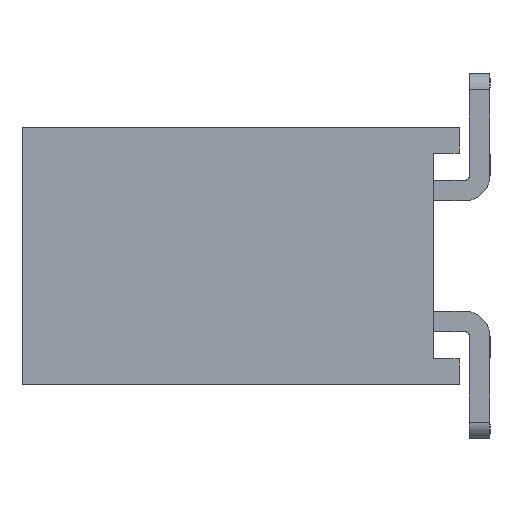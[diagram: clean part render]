
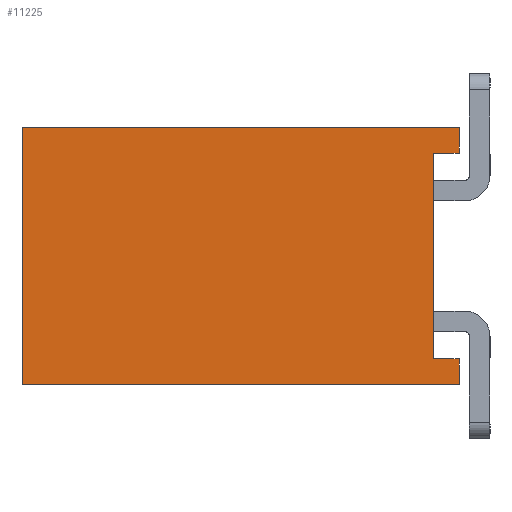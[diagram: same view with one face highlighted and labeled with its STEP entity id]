
A CAD part, left-side view. The second image highlights one B-rep face of the part: STEP entity #11225.
In plain terms, the highlighted planar face has unit normal (-1, 0, 0).
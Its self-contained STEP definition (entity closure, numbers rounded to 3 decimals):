
#403=FACE_OUTER_BOUND('',#989,.T.);
#989=EDGE_LOOP('',(#7507,#7508,#7509,#7510,#7511,#7512,#7513,#7514));
#1695=LINE('',#15835,#3191);
#1696=LINE('',#15837,#3192);
#1697=LINE('',#15839,#3193);
#1698=LINE('',#15841,#3194);
#1699=LINE('',#15843,#3195);
#1700=LINE('',#15845,#3196);
#1701=LINE('',#15847,#3197);
#1702=LINE('',#15848,#3198);
#3191=VECTOR('',#12765,10.);
#3192=VECTOR('',#12766,10.);
#3193=VECTOR('',#12767,10.);
#3194=VECTOR('',#12768,10.);
#3195=VECTOR('',#12769,10.);
#3196=VECTOR('',#12770,10.);
#3197=VECTOR('',#12771,10.);
#3198=VECTOR('',#12772,10.);
#4659=VERTEX_POINT('',#15833);
#4660=VERTEX_POINT('',#15834);
#4661=VERTEX_POINT('',#15836);
#4662=VERTEX_POINT('',#15838);
#4663=VERTEX_POINT('',#15840);
#4664=VERTEX_POINT('',#15842);
#4665=VERTEX_POINT('',#15844);
#4666=VERTEX_POINT('',#15846);
#5739=EDGE_CURVE('',#4659,#4660,#1695,.T.);
#5740=EDGE_CURVE('',#4659,#4661,#1696,.T.);
#5741=EDGE_CURVE('',#4661,#4662,#1697,.T.);
#5742=EDGE_CURVE('',#4663,#4662,#1698,.T.);
#5743=EDGE_CURVE('',#4664,#4663,#1699,.T.);
#5744=EDGE_CURVE('',#4664,#4665,#1700,.T.);
#5745=EDGE_CURVE('',#4666,#4665,#1701,.T.);
#5746=EDGE_CURVE('',#4660,#4666,#1702,.T.);
#7507=ORIENTED_EDGE('',*,*,#5739,.F.);
#7508=ORIENTED_EDGE('',*,*,#5740,.T.);
#7509=ORIENTED_EDGE('',*,*,#5741,.T.);
#7510=ORIENTED_EDGE('',*,*,#5742,.F.);
#7511=ORIENTED_EDGE('',*,*,#5743,.F.);
#7512=ORIENTED_EDGE('',*,*,#5744,.T.);
#7513=ORIENTED_EDGE('',*,*,#5745,.F.);
#7514=ORIENTED_EDGE('',*,*,#5746,.F.);
#10729=PLANE('',#11843);
#11225=ADVANCED_FACE('',(#403),#10729,.T.);
#11843=AXIS2_PLACEMENT_3D('',#15832,#12763,#12764);
#12763=DIRECTION('center_axis',(-1.,0.,0.));
#12764=DIRECTION('ref_axis',(0.,0.,1.));
#12765=DIRECTION('',(0.,1.,0.));
#12766=DIRECTION('',(0.,0.,1.));
#12767=DIRECTION('',(0.,1.,0.));
#12768=DIRECTION('',(0.,0.,1.));
#12769=DIRECTION('',(0.,1.,0.));
#12770=DIRECTION('',(0.,0.,1.));
#12771=DIRECTION('',(0.,-1.,0.));
#12772=DIRECTION('',(0.,0.,-1.));
#15832=CARTESIAN_POINT('Origin',(-12.7,0.,-5.));
#15833=CARTESIAN_POINT('',(-12.7,0.,-0.5));
#15834=CARTESIAN_POINT('',(-12.7,0.5,-0.5));
#15835=CARTESIAN_POINT('',(-12.7,0.,-0.5));
#15836=CARTESIAN_POINT('',(-12.7,0.,0.));
#15837=CARTESIAN_POINT('',(-12.7,0.,-5.));
#15838=CARTESIAN_POINT('',(-12.7,8.5,0.));
#15839=CARTESIAN_POINT('',(-12.7,0.,0.));
#15840=CARTESIAN_POINT('',(-12.7,8.5,-5.));
#15841=CARTESIAN_POINT('',(-12.7,8.5,-5.));
#15842=CARTESIAN_POINT('',(-12.7,0.,-5.));
#15843=CARTESIAN_POINT('',(-12.7,0.,-5.));
#15844=CARTESIAN_POINT('',(-12.7,0.,-4.5));
#15845=CARTESIAN_POINT('',(-12.7,0.,-5.));
#15846=CARTESIAN_POINT('',(-12.7,0.5,-4.5));
#15847=CARTESIAN_POINT('',(-12.7,0.,-4.5));
#15848=CARTESIAN_POINT('',(-12.7,0.5,-1.099));
